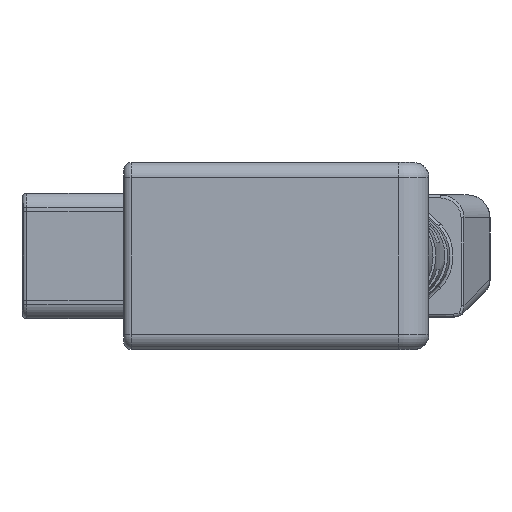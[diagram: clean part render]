
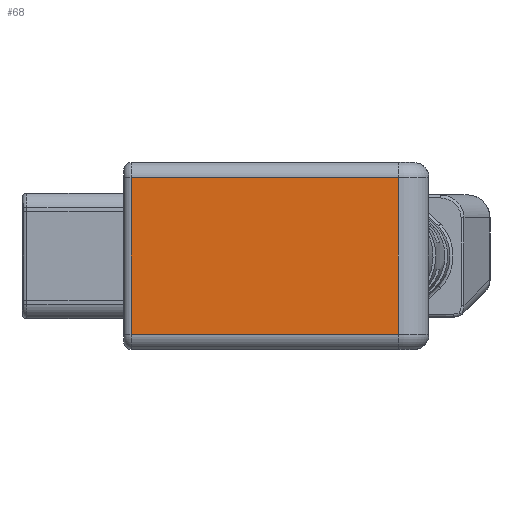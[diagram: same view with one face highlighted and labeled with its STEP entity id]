
A CAD part, front view. The second image highlights one B-rep face of the part: STEP entity #68.
In plain terms, the highlighted planar face has unit normal (0, -1, 0).
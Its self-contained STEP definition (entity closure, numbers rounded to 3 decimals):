
#68 = ADVANCED_FACE ( 'NONE', ( #9281 ), #14238, .F. ) ;
#233 = DIRECTION ( 'NONE',  ( 0., 0., -1. ) ) ;
#1828 = EDGE_CURVE ( 'NONE', #14449, #10518, #3113, .T. ) ;
#2539 = VECTOR ( 'NONE', #6126, 1000. ) ;
#2561 = LINE ( 'NONE', #5355, #15261 ) ;
#2768 = ORIENTED_EDGE ( 'NONE', *, *, #1828, .T. ) ;
#3113 = LINE ( 'NONE', #11913, #2539 ) ;
#3791 = VECTOR ( 'NONE', #233, 1000. ) ;
#4426 = EDGE_LOOP ( 'NONE', ( #8437, #14504, #2768, #14967 ) ) ;
#5003 = VECTOR ( 'NONE', #14671, 1000. ) ;
#5128 = LINE ( 'NONE', #11225, #3791 ) ;
#5277 = CARTESIAN_POINT ( 'NONE',  ( -15.5, -123.8, 5.125 ) ) ;
#5355 = CARTESIAN_POINT ( 'NONE',  ( -15.5, -123.8, 6.125 ) ) ;
#6126 = DIRECTION ( 'NONE',  ( 1., 0., 0. ) ) ;
#6922 = VERTEX_POINT ( 'NONE', #8551 ) ;
#8437 = ORIENTED_EDGE ( 'NONE', *, *, #10118, .T. ) ;
#8551 = CARTESIAN_POINT ( 'NONE',  ( 2., -123.8, 5.125 ) ) ;
#8587 = CARTESIAN_POINT ( 'NONE',  ( -16., -123.8, 5.125 ) ) ;
#8726 = DIRECTION ( 'NONE',  ( 0., 0., -1. ) ) ;
#9281 = FACE_OUTER_BOUND ( 'NONE', #4426, .T. ) ;
#10118 = EDGE_CURVE ( 'NONE', #6922, #10559, #12268, .T. ) ;
#10518 = VERTEX_POINT ( 'NONE', #14348 ) ;
#10559 = VERTEX_POINT ( 'NONE', #5277 ) ;
#11225 = CARTESIAN_POINT ( 'NONE',  ( 2., -123.8, 6.125 ) ) ;
#11350 = EDGE_CURVE ( 'NONE', #10559, #14449, #2561, .T. ) ;
#11913 = CARTESIAN_POINT ( 'NONE',  ( -16., -123.8, -5.125 ) ) ;
#12161 = EDGE_CURVE ( 'NONE', #6922, #10518, #5128, .T. ) ;
#12268 = LINE ( 'NONE', #8587, #5003 ) ;
#12960 = DIRECTION ( 'NONE',  ( 0., 1., 0. ) ) ;
#13089 = AXIS2_PLACEMENT_3D ( 'NONE', #14155, #12960, #15360 ) ;
#14155 = CARTESIAN_POINT ( 'NONE',  ( -16., -123.8, 6.125 ) ) ;
#14238 = PLANE ( 'NONE',  #13089 ) ;
#14348 = CARTESIAN_POINT ( 'NONE',  ( 2., -123.8, -5.125 ) ) ;
#14449 = VERTEX_POINT ( 'NONE', #14987 ) ;
#14504 = ORIENTED_EDGE ( 'NONE', *, *, #11350, .T. ) ;
#14671 = DIRECTION ( 'NONE',  ( -1., 0., 0. ) ) ;
#14967 = ORIENTED_EDGE ( 'NONE', *, *, #12161, .F. ) ;
#14987 = CARTESIAN_POINT ( 'NONE',  ( -15.5, -123.8, -5.125 ) ) ;
#15261 = VECTOR ( 'NONE', #8726, 1000. ) ;
#15360 = DIRECTION ( 'NONE',  ( -1., 0., 0. ) ) ;
